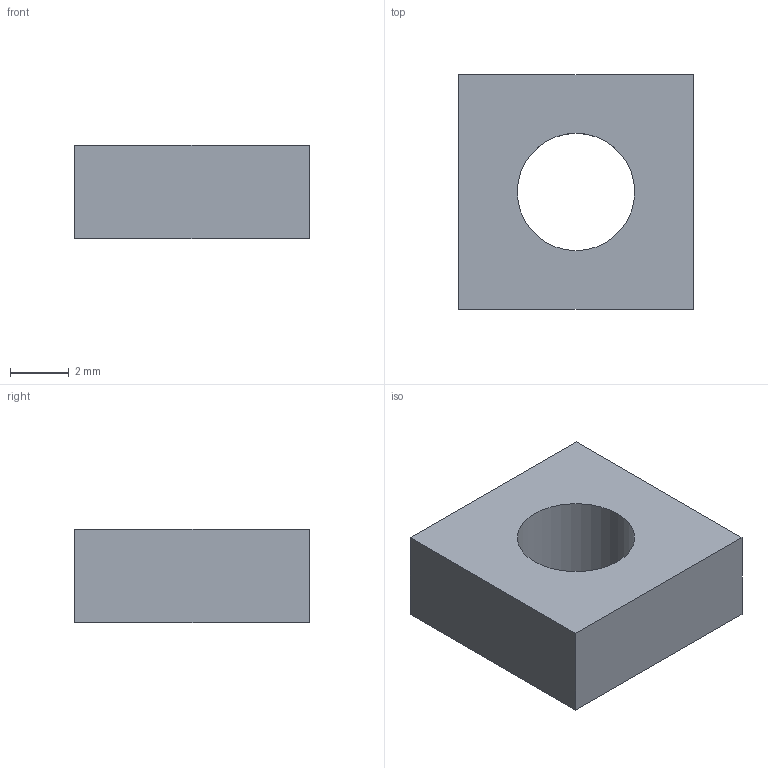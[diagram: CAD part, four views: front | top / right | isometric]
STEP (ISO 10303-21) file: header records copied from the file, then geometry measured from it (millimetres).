
FILE_DESCRIPTION( ( 'STEP AP203' ), '1' );
FILE_NAME( 'C:/NSM-04-4.stp', '2013-10-20T23:49:40', ( ' ' ), ( ' ' ), 'XStep 1.0', ' ', ' ' );
FILE_SCHEMA( ( 'CONFIG_CONTROL_DESIGN' ) );
Length unit declared in the file: metre
Products named in the file (1): 1
Bounding box: 8 x 8 x 3.2 mm (x, y, z)
Volume: 164.3 mm3; surface area: 245.6 mm2
Topology: 1 solids, 1 shells, 7 faces, 15 edges, 10 vertices
Faces by surface type: bspline 7
Entity records: 243 total; most frequent: CARTESIAN_POINT 63, ORIENTED_EDGE 28, DIRECTION 18, EDGE_CURVE 14, LINE 12, VECTOR 12, EDGE_LOOP 10, VERTEX_POINT 10
